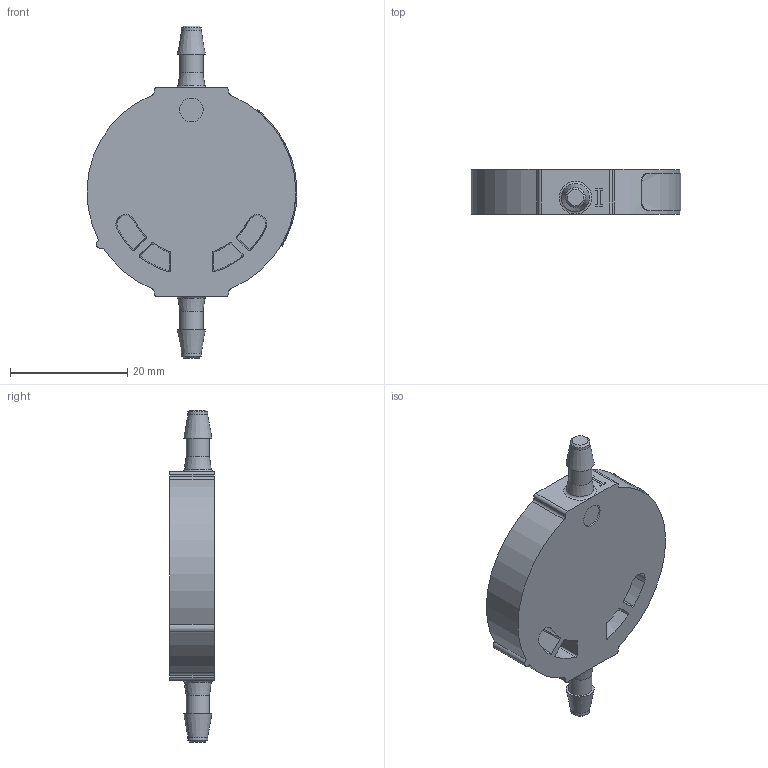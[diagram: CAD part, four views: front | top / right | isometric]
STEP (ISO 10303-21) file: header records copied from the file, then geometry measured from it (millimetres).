
FILE_DESCRIPTION(/* description */ (''),/* implementation_level */ '2;1');
FILE_NAME(/* name */ 'SDO1NZA1-I.stp',/* time_stamp */ '2024-02-12T15:51:05-05:00',/* author */ ('kdone'),/* organization */ (''),/* preprocessor_version */ 'ST-DEVELOPER v19.2',/* originating_system */ 'Autodesk Inventor 2023',/* authorisation */ '');
FILE_SCHEMA (('AUTOMOTIVE_DESIGN { 1 0 10303 214 3 1 1 }'));
Length unit declared in the file: inch
Products named in the file (1): SDO1NZA1-I
Bounding box: 35.76 x 7.62 x 56.54 mm (x, y, z)
Volume: 7631.2 mm3; surface area: 3467.3 mm2
Topology: 1 solids, 1 shells, 108 faces, 273 edges, 180 vertices
Faces by surface type: plane 42, bspline 30, cylinder 18, cone 16, torus 2
Full cylindrical faces by diameter (mm): 3.378 x2, 3.962 x2, 4 x1
Entity records: 4029 total; most frequent: CARTESIAN_POINT 1555, ORIENTED_EDGE 546, DIRECTION 417, EDGE_CURVE 273, VERTEX_POINT 180, AXIS2_PLACEMENT_3D 149, EDGE_LOOP 121, LINE 119
